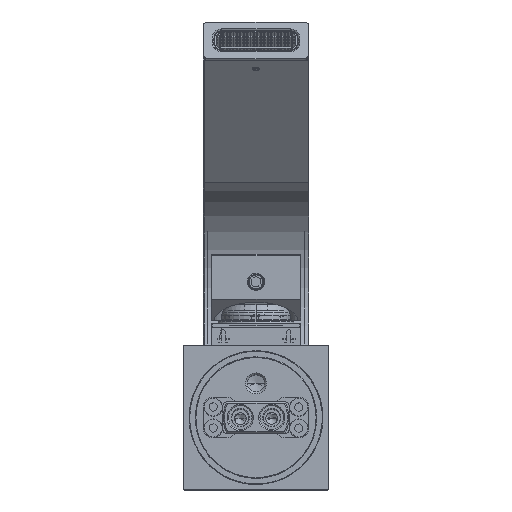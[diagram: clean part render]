
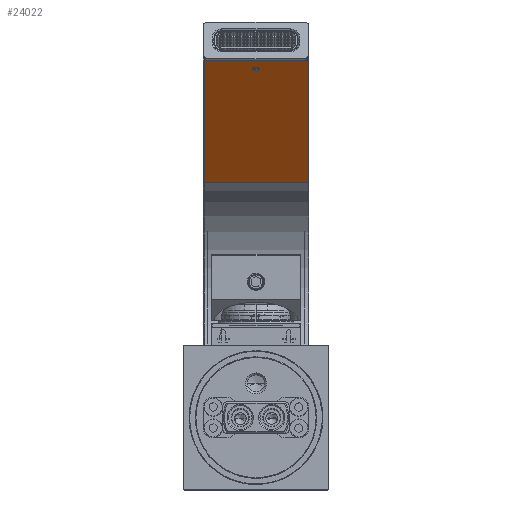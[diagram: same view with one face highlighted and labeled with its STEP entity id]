
A CAD part, top view. The second image highlights one B-rep face of the part: STEP entity #24022.
In plain terms, the highlighted planar face has unit normal (0, -0.94, 0.342) as drawn and (-0.94, -0.342, 0) by its records, which use the part's own axes.
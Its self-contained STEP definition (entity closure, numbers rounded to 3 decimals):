
#136 = VECTOR ( 'NONE', #39167, 1000. ) ;
#392 = VERTEX_POINT ( 'NONE', #46438 ) ;
#2999 = ORIENTED_EDGE ( 'NONE', *, *, #65302, .T. ) ;
#4240 = CARTESIAN_POINT ( 'NONE',  ( 89.937, 147.936, 1. ) ) ;
#8153 = PLANE ( 'NONE',  #18174 ) ;
#8619 = CARTESIAN_POINT ( 'NONE',  ( 89.937, 147.936, 20. ) ) ;
#8784 = DIRECTION ( 'NONE',  ( -0.94, -0.342, 0. ) ) ;
#12161 = DIRECTION ( 'NONE',  ( 0.342, -0.94, 0. ) ) ;
#17032 = CARTESIAN_POINT ( 'NONE',  ( 136.11, 21.077, -20. ) ) ;
#18174 = AXIS2_PLACEMENT_3D ( 'NONE', #8619, #47297, #46808 ) ;
#18374 = AXIS2_PLACEMENT_3D ( 'NONE', #50579, #68178, #12161 ) ;
#20778 = EDGE_LOOP ( 'NONE', ( #49545, #35245 ) ) ;
#21752 = LINE ( 'NONE', #17032, #136 ) ;
#21921 = EDGE_CURVE ( 'NONE', #37425, #31742, #67861, .T. ) ;
#22408 = LINE ( 'NONE', #4240, #63024 ) ;
#24022 = ADVANCED_FACE ( 'NONE', ( #49332, #70963 ), #8153, .T. ) ;
#29054 = VERTEX_POINT ( 'NONE', #70964 ) ;
#30561 = DIRECTION ( 'NONE',  ( 0.342, -0.94, 0. ) ) ;
#30983 = EDGE_CURVE ( 'NONE', #29054, #392, #40737, .T. ) ;
#31742 = VERTEX_POINT ( 'NONE', #64631 ) ;
#32494 = DIRECTION ( 'NONE',  ( 0.342, -0.94, 0. ) ) ;
#32634 = CARTESIAN_POINT ( 'NONE',  ( 136.11, 21.077, 0. ) ) ;
#35245 = ORIENTED_EDGE ( 'NONE', *, *, #50960, .F. ) ;
#35601 = ORIENTED_EDGE ( 'NONE', *, *, #36721, .F. ) ;
#36517 = CARTESIAN_POINT ( 'NONE',  ( 132.86, 30.004, 0. ) ) ;
#36721 = EDGE_CURVE ( 'NONE', #67741, #37425, #42311, .T. ) ;
#37425 = VERTEX_POINT ( 'NONE', #46727 ) ;
#38406 = VECTOR ( 'NONE', #48853, 1000. ) ;
#39167 = DIRECTION ( 'NONE',  ( -0.342, 0.94, 0. ) ) ;
#39563 = VERTEX_POINT ( 'NONE', #43177 ) ;
#40671 = VECTOR ( 'NONE', #32494, 1000. ) ;
#40737 = CIRCLE ( 'NONE', #18374, 1.25 ) ;
#40904 = AXIS2_PLACEMENT_3D ( 'NONE', #36517, #8784, #30561 ) ;
#42311 = LINE ( 'NONE', #60058, #40671 ) ;
#42762 = CARTESIAN_POINT ( 'NONE',  ( 89.937, 147.936, 19.75 ) ) ;
#43177 = CARTESIAN_POINT ( 'NONE',  ( 89.937, 147.936, -20. ) ) ;
#46438 = CARTESIAN_POINT ( 'NONE',  ( 132.433, 31.179, 0. ) ) ;
#46727 = CARTESIAN_POINT ( 'NONE',  ( 136.11, 21.077, 19.75 ) ) ;
#46808 = DIRECTION ( 'NONE',  ( 0.342, -0.94, 0. ) ) ;
#47297 = DIRECTION ( 'NONE',  ( -0.94, -0.342, 0. ) ) ;
#48642 = DIRECTION ( 'NONE',  ( 0., 0., -1. ) ) ;
#48853 = DIRECTION ( 'NONE',  ( 0., 0., -1. ) ) ;
#49332 = FACE_BOUND ( 'NONE', #20778, .T. ) ;
#49545 = ORIENTED_EDGE ( 'NONE', *, *, #30983, .F. ) ;
#50579 = CARTESIAN_POINT ( 'NONE',  ( 132.86, 30.004, 0. ) ) ;
#50960 = EDGE_CURVE ( 'NONE', #392, #29054, #71374, .T. ) ;
#53488 = EDGE_LOOP ( 'NONE', ( #71577, #35601, #2999, #54100 ) ) ;
#54100 = ORIENTED_EDGE ( 'NONE', *, *, #71314, .F. ) ;
#60058 = CARTESIAN_POINT ( 'NONE',  ( 136.244, 20.708, 19.75 ) ) ;
#63024 = VECTOR ( 'NONE', #48642, 1000. ) ;
#64631 = CARTESIAN_POINT ( 'NONE',  ( 136.11, 21.077, -20. ) ) ;
#65302 = EDGE_CURVE ( 'NONE', #67741, #39563, #22408, .T. ) ;
#67741 = VERTEX_POINT ( 'NONE', #42762 ) ;
#67861 = LINE ( 'NONE', #32634, #38406 ) ;
#68178 = DIRECTION ( 'NONE',  ( -0.94, -0.342, 0. ) ) ;
#70963 = FACE_OUTER_BOUND ( 'NONE', #53488, .T. ) ;
#70964 = CARTESIAN_POINT ( 'NONE',  ( 133.288, 28.83, 0. ) ) ;
#71314 = EDGE_CURVE ( 'NONE', #31742, #39563, #21752, .T. ) ;
#71374 = CIRCLE ( 'NONE', #40904, 1.25 ) ;
#71577 = ORIENTED_EDGE ( 'NONE', *, *, #21921, .F. ) ;
